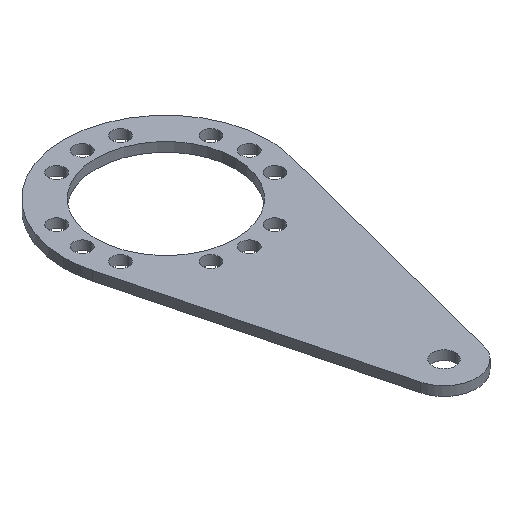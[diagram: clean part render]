
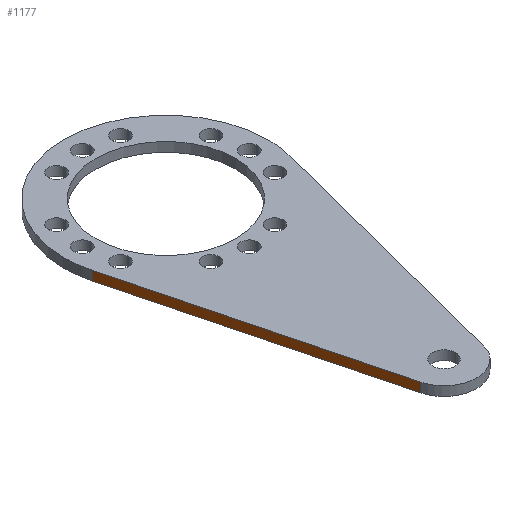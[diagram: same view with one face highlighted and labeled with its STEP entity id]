
A CAD part, isometric view. The second image highlights one B-rep face of the part: STEP entity #1177.
In plain terms, the highlighted planar face has unit normal (-0.968, -0.25, 0).
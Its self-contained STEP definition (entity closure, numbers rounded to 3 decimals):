
#55 = CARTESIAN_POINT ( 'NONE',  ( -53.254, -13.75, -2.5 ) ) ;
#61 = CARTESIAN_POINT ( 'NONE',  ( -53.254, -13.75, 2.5 ) ) ;
#67 = LINE ( 'NONE', #61, #103 ) ;
#102 = DIRECTION ( 'NONE',  ( 0., 0., -1. ) ) ;
#103 = VECTOR ( 'NONE', #102, 1000. ) ;
#154 = CARTESIAN_POINT ( 'NONE',  ( -53.254, -13.75, 2.5 ) ) ;
#307 = DIRECTION ( 'NONE',  ( -0.25, 0.968, 0. ) ) ;
#308 = DIRECTION ( 'NONE',  ( 0.968, 0.25, 0. ) ) ;
#309 = CARTESIAN_POINT ( 'NONE',  ( -16.944, -154.375, 2.5 ) ) ;
#314 = DIRECTION ( 'NONE',  ( 0., 0., -1. ) ) ;
#315 = VECTOR ( 'NONE', #314, 1000. ) ;
#316 = AXIS2_PLACEMENT_3D ( 'NONE', #309, #308, #307 ) ;
#318 = PLANE ( 'NONE',  #316 ) ;
#323 = CARTESIAN_POINT ( 'NONE',  ( -16.944, -154.375, 2.5 ) ) ;
#324 = LINE ( 'NONE', #323, #315 ) ;
#325 = FACE_OUTER_BOUND ( 'NONE', #709, .T. ) ;
#623 = ORIENTED_EDGE ( 'NONE', *, *, #648, .F. ) ;
#628 = ORIENTED_EDGE ( 'NONE', *, *, #727, .T. ) ;
#632 = ORIENTED_EDGE ( 'NONE', *, *, #1176, .F. ) ;
#634 = ORIENTED_EDGE ( 'NONE', *, *, #782, .T. ) ;
#648 = EDGE_CURVE ( 'NONE', #790, #653, #1012, .T. ) ;
#653 = VERTEX_POINT ( 'NONE', #1014 ) ;
#709 = EDGE_LOOP ( 'NONE', ( #628, #632, #623, #634 ) ) ;
#725 = VERTEX_POINT ( 'NONE', #1141 ) ;
#727 = EDGE_CURVE ( 'NONE', #742, #725, #1139, .T. ) ;
#742 = VERTEX_POINT ( 'NONE', #55 ) ;
#782 = EDGE_CURVE ( 'NONE', #790, #742, #67, .T. ) ;
#790 = VERTEX_POINT ( 'NONE', #154 ) ;
#1010 = DIRECTION ( 'NONE',  ( 0.25, -0.968, 0. ) ) ;
#1011 = VECTOR ( 'NONE', #1010, 1000. ) ;
#1012 = LINE ( 'NONE', #1019, #1011 ) ;
#1014 = CARTESIAN_POINT ( 'NONE',  ( -16.944, -154.375, 2.5 ) ) ;
#1019 = CARTESIAN_POINT ( 'NONE',  ( -16.944, -154.375, 2.5 ) ) ;
#1107 = CARTESIAN_POINT ( 'NONE',  ( -16.944, -154.375, -2.5 ) ) ;
#1137 = DIRECTION ( 'NONE',  ( 0.25, -0.968, 0. ) ) ;
#1138 = VECTOR ( 'NONE', #1137, 1000. ) ;
#1139 = LINE ( 'NONE', #1107, #1138 ) ;
#1141 = CARTESIAN_POINT ( 'NONE',  ( -16.944, -154.375, -2.5 ) ) ;
#1176 = EDGE_CURVE ( 'NONE', #653, #725, #324, .T. ) ;
#1177 = ADVANCED_FACE ( 'NONE', ( #325 ), #318, .F. ) ;
